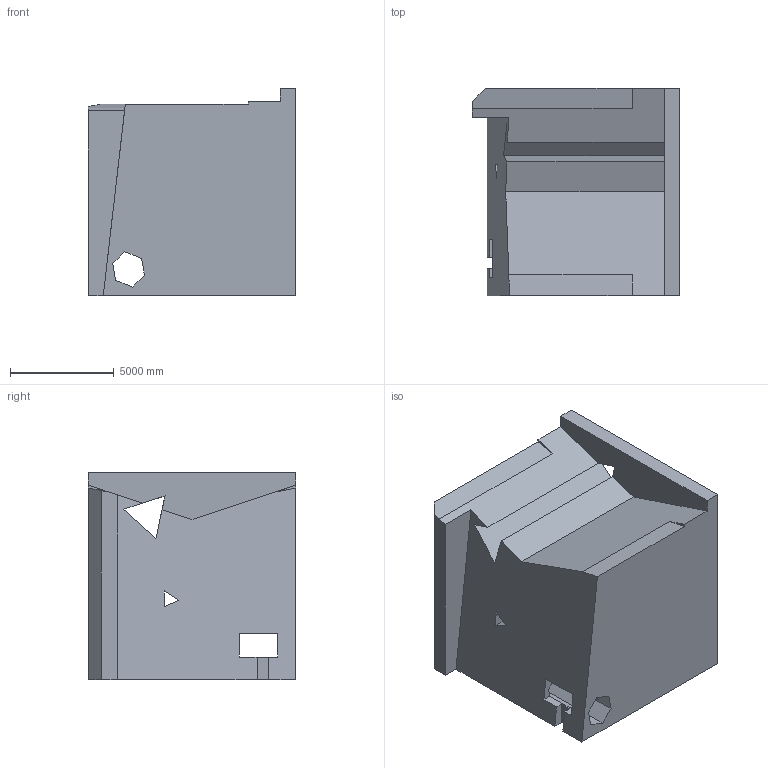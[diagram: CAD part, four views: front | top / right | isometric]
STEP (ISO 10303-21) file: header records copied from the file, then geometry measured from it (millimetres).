
FILE_DESCRIPTION (( 'STEP AP203' ), '1' );
FILE_NAME ('93.STEP', '2022-08-30T15:42:03', ( 'user' ), ( '' ), 'SwSTEP 2.0', 'SolidWorks 2021', '' );
FILE_SCHEMA (( 'CONFIG_CONTROL_DESIGN' ));
Length unit declared in the file: centimetre
Products named in the file (1): 93
Bounding box: 10000 x 10000 x 10000 mm (x, y, z)
Volume: 722557521970.5 mm3; surface area: 709017942.3 mm2
Topology: 1 solids, 1 shells, 43 faces, 132 edges, 88 vertices
Faces by surface type: plane 43
Entity records: 1543 total; most frequent: CARTESIAN_POINT 264, ORIENTED_EDGE 264, DIRECTION 220, EDGE_CURVE 132, LINE 132, VECTOR 132, VERTEX_POINT 88, EDGE_LOOP 50
